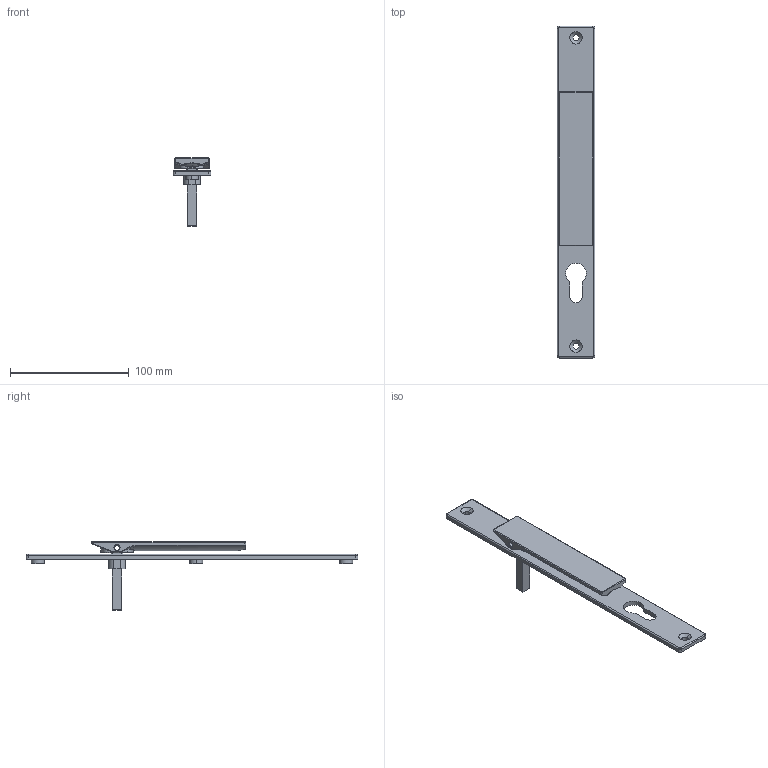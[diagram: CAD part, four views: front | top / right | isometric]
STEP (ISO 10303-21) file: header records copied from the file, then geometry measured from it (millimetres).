
FILE_DESCRIPTION (( 'STEP AP203' ), '1' );
FILE_NAME ('TPL-SS-003-A 23Apr2026.STEP', '2026-04-22T22:50:21', ( '' ), ( '' ), 'SwSTEP 2.0', 'SolidWorks 2023', '' );
FILE_SCHEMA (( 'CONFIG_CONTROL_DESIGN' ));
Length unit declared in the file: millimetre
Products named in the file (6): Copy of Escutcheon plate keyed internal 280mm - simplified^TPGen2 handle keyed internal SS - simplified; TPL-SS-003-A 23Apr2026; Copy of LKC-506 Swing handle SS - simplified^TPGen2 handle keyed internal SS - simplified; Copy of LKC-585 Rotator body zinc - simplified^TPGen2 handle keyed internal SS - simplified; Copy of LKC-586 Spindle square 8mm with M4 hole - simplified^TPGen2 handle keyed internal SS - simplified_43mm; Copy of LKC-584 Pivot body zinc - simplified^TPGen2 handle keyed internal SS - simplified
Assembly tree (5 placements, depth 2):
  TPL-SS-003-A 23Apr2026
    Copy of Escutcheon plate keyed internal 280mm - simplified^TPGen2 handle keyed internal SS - simplified
    Copy of LKC-586 Spindle square 8mm with M4 hole - simplified^TPGen2 handle keyed internal SS - simplified_43mm
    Copy of LKC-584 Pivot body zinc - simplified^TPGen2 handle keyed internal SS - simplified
    Copy of LKC-585 Rotator body zinc - simplified^TPGen2 handle keyed internal SS - simplified
    Copy of LKC-506 Swing handle SS - simplified^TPGen2 handle keyed internal SS - simplified
Bounding box: 32 x 280 x 57.55 mm (x, y, z)
Volume: 59896.9 mm3; surface area: 34361.9 mm2
Topology: 5 solids, 5 shells, 298 faces, 712 edges, 430 vertices
Faces by surface type: cylinder 113, plane 81, bspline 44, torus 36, cone 22, sphere 2
Entity records: 10250 total; most frequent: CARTESIAN_POINT 2934, ORIENTED_EDGE 1420, DIRECTION 1411, EDGE_CURVE 710, AXIS2_PLACEMENT_3D 559, VERTEX_POINT 430, EDGE_LOOP 332, ADVANCED_FACE 298
